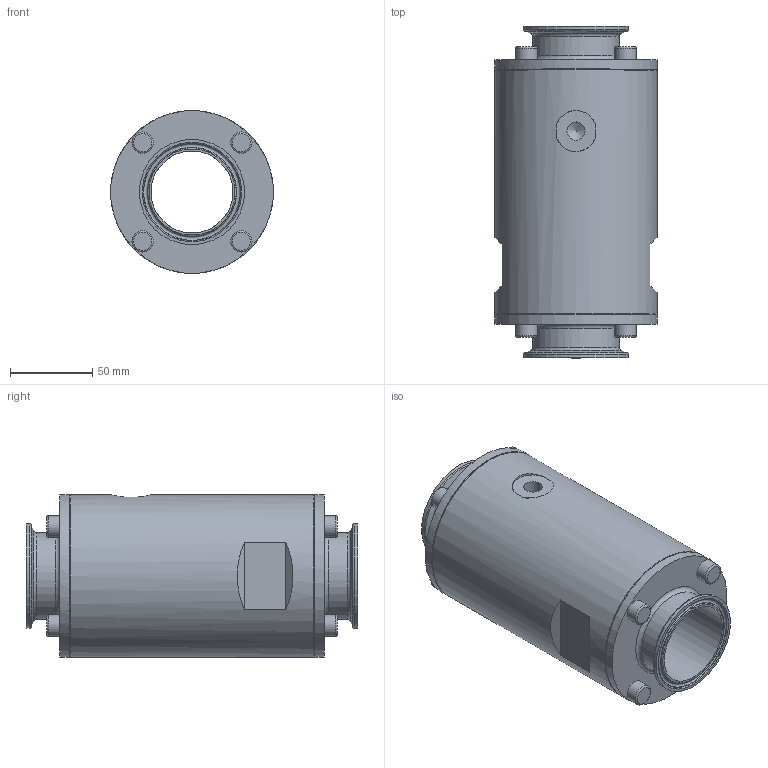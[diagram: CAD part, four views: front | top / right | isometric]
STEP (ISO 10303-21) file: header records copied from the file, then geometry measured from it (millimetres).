
FILE_DESCRIPTION(/* description */ (''),/* implementation_level */ '2;1');
FILE_NAME(/* name */ '88050.stp',/* time_stamp */ '2019-06-10T07:22:06+02:00',/* author */ (''),/* organization */ (''),/* preprocessor_version */ 'ST-DEVELOPER v16.7',/* originating_system */ 'SIEMENS PLM Software NX 12.0',/* authorisation */ '');
FILE_SCHEMA (('AUTOMOTIVE_DESIGN { 1 0 10303 214 3 1 1 1 }'));
Length unit declared in the file: millimetre
Products named in the file (2): ES_UNI50_Clamp-Fl_DIN32676; Serie80_QV50_assembly_VEREINFACHT_Tri
Assembly tree (2 placements, depth 2):
  Serie80_QV50_assembly_VEREINFACHT_Tri
    ES_UNI50_Clamp-Fl_DIN32676  x2
Bounding box: 99 x 202 x 99 mm (x, y, z)
Volume: 1076244.5 mm3; surface area: 166358 mm2
Topology: 3 solids, 11 shells, 183 faces, 395 edges, 258 vertices
Faces by surface type: cylinder 71, plane 51, torus 40, cone 21
Full cylindrical faces by diameter (mm): 8.5 x8, 11.113 x1, 13 x8, 50 x5, 53 x4, 64 x4, 93.8 x2, 99 x5
Entity records: 3583 total; most frequent: DIRECTION 698, CARTESIAN_POINT 568, ORIENTED_EDGE 430, AXIS2_PLACEMENT_3D 328, EDGE_LOOP 262, EDGE_CURVE 215, FACE_BOUND 199, VERTEX_POINT 178
